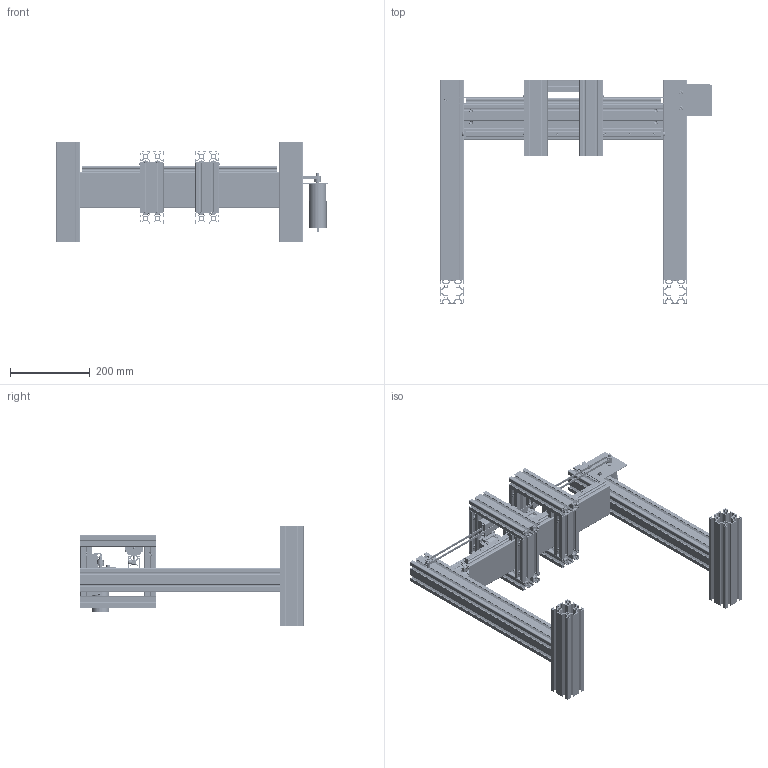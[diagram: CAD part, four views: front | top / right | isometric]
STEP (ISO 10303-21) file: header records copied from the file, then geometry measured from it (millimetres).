
FILE_DESCRIPTION(/* description */ ('www.motedis.com','CAx-IF Rec.Pracs.---Representation and Presentation of Product Manufacturing Information (PMI)---4.0---2014-10-13'),/* implementation_level */ '2;1');
FILE_NAME(/* name */ 'DIY Linear Motion Test Bench Belt Actuation.stp',/* time_stamp */ '2026-03-05T13:46:00+01:00',/* author */ ('Motedis'),/* organization */ ('Motedis GmbH'),/* preprocessor_version */ 'ST-DEVELOPER v20.1',/* originating_system */ 'Autodesk Inventor 2026',/* authorisation */ 'Motedis GmbH');
FILE_SCHEMA (('AP242_MANAGED_MODEL_BASED_3D_ENGINEERING_MIM_LF { 1 0 10303 442 2 1 4 }'));
Products named in the file (35): TestBenchLinealGuidesCintas; FrontPlate; HTD 5M Tensor; Profile_60x60_8N_B-Type_Slot_8(250mm); Profile_60x60_8N_B-Type_Slot_8(500mm); Profile_60x60_8N_B-Type_Slot_8(500mm)_1; Motedis_Profile_30x90x90_6N_B-Type_Slot_8(500mm); HGW15CA L=490mm; HGW15CA; Motedis_Profile_30x60_B-Type_slot_8(500mm); Motedis_Profile_30x60_B-Type_slot_8(190mm); Motedis Slider B-Type slot 8 - Carriage Mount - 3DP; Motedis Slider B-Type slot 8 - Carriage Mount - 3DP_1; HGW15CA_1; HGW15CA_2; Motedis_Profile_30x60_B-Type_slot_8(500mm)_1; Motedis_Profile_30x60_B-Type_slot_8(500mm)_2; Motedis Slider B-Type slot 8 - Carriage Mount - 3DP_2; Motedis Slider B-Type slot 8 - Carriage Mount - 3DP_3; 099b08110790; DIN 7991 - M5  x  25; Motedis_Profile_30x60_B-Type_slot_8(190mm)_1; P30_N8_B(80mm); Motedis_PMM-24V-9RPM; Motedis 9690; DIN 912 - M6 x 10; DIN 912 - M5 x 30; DIN 126 - 5,5; 3679; DIN 9021 - 5,3; Belt; 099b08110700; Motedis TP-GT2-6-20T-8B; Motedis IW-GT2-6-20T-5B-WB; DIN 912 - M4 x 16
Assembly tree (99 placements, depth 2):
  TestBenchLinealGuidesCintas
    FrontPlate
    HTD 5M Tensor  x2
    Profile_60x60_8N_B-Type_Slot_8(250mm)  x2
    Profile_60x60_8N_B-Type_Slot_8(500mm)
    Profile_60x60_8N_B-Type_Slot_8(500mm)_1
    Motedis_Profile_30x90x90_6N_B-Type_Slot_8(500mm)
    HGW15CA L=490mm  x2
    HGW15CA_1  x2
    HGW15CA
    Motedis_Profile_30x60_B-Type_slot_8(500mm)
    Motedis_Profile_30x60_B-Type_slot_8(500mm)_2  x2
    Motedis_Profile_30x60_B-Type_slot_8(190mm)_1  x3
    Motedis_Profile_30x60_B-Type_slot_8(190mm)
    DIN 912 - M4 x 16  x24
    Motedis Slider B-Type slot 8 - Carriage Mount - 3DP
    DIN 7991 - M5  x  25  x8
    099b08110700  x22
    Motedis Slider B-Type slot 8 - Carriage Mount - 3DP_1
    HGW15CA_2
    Motedis_Profile_30x60_B-Type_slot_8(500mm)_1
    Motedis Slider B-Type slot 8 - Carriage Mount - 3DP_2
    Motedis Slider B-Type slot 8 - Carriage Mount - 3DP_3
    099b08110790  x4
    P30_N8_B(80mm)
    Motedis_PMM-24V-9RPM
    Motedis 9690
    DIN 912 - M6 x 10  x2
    DIN 912 - M5 x 30
    DIN 126 - 5,5  x2
    DIN 9021 - 5,3  x3
    3679
    Belt
    Motedis TP-GT2-6-20T-8B
    Motedis IW-GT2-6-20T-5B-WB
Bounding box: 683 x 560 x 250 mm (x, y, z)
Volume: 3488473.8 mm3; surface area: 3017686.5 mm2
Topology: 201 solids, 201 shells, 14419 faces, 39564 edges, 25400 vertices
Faces by surface type: plane 5847, cylinder 5740, cone 1954, torus 340, bspline 310, sphere 228
Full cylindrical faces by diameter (mm): 3.242 x4, 3.3 x16, 4 x48, 4.134 x16, 4.5 x16, 5 x10, 5.1 x1, 5.3 x3, 5.5 x22, 5.7 x26, 6 x2, 6.5 x6, 6.7 x2, 7 x466, 7.1 x52, 7.3 x26, 7.5 x16, 8 x133, 8.5 x5, 9.43 x8, 10 x6, 10.5 x4, 10.85 x26, 15 x3, 16 x2, 16.6 x1, 18 x2, 26 x1, 27 x1, 42 x1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
Entity records: 197709 total; most frequent: CARTESIAN_POINT 42121, DIRECTION 33156, ORIENTED_EDGE 32018, EDGE_CURVE 16009, AXIS2_PLACEMENT_3D 11511, VERTEX_POINT 10524, LINE 10134, VECTOR 10134
